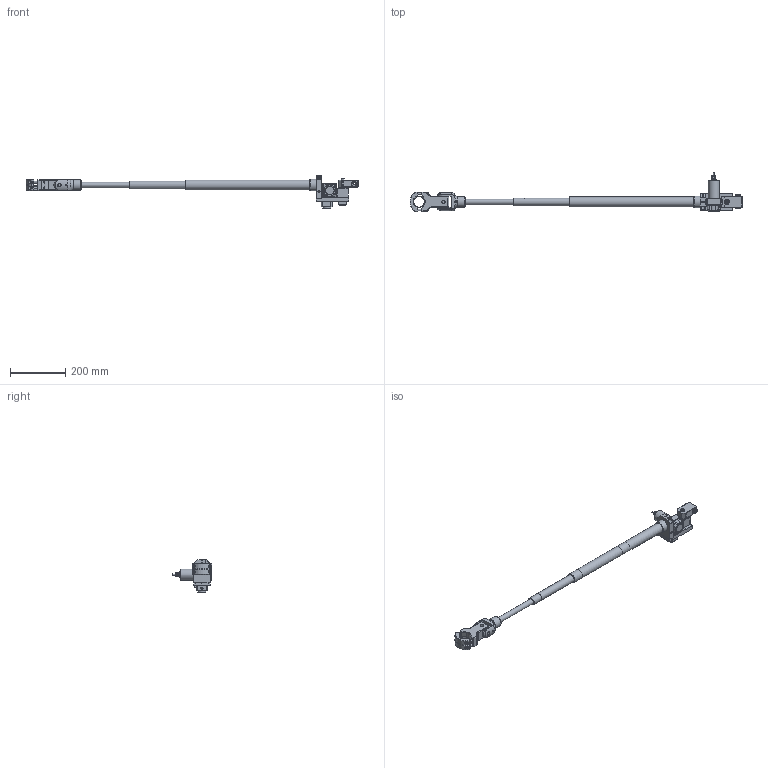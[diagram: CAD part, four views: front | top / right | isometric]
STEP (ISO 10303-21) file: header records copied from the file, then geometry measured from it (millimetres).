
FILE_DESCRIPTION( ( 'Unknown' ), '1' );
FILE_NAME( 'E:/0 Travail/0 Travaux en cours/Doga/Assemblage 2014/BIBLIOTEQUE 3D/Assemblage 2011/11-25-3637 DOGA/4-1200665-bras DMF 80 LAPC_1500/4-1200665-bras DMF 80 LAPC_1500.stp', 'Unknown', ( 'Unknown' ), ( 'Unknown' ), 'PSStep 14.0', 'Unknown', ' ' );
FILE_SCHEMA( ( 'AUTOMOTIVE_DESIGN { 1 0 10303 214 1 1 1 1 }' ) );
Length unit declared in the file: millimetre
Products named in the file (60): Tube 28-25 pour DMF80-1500 LPC ; Tube 20.2x24.8; Tube 28.2x31.8-oa5; Tube 25x28 pour DMF80-1500 LPC ; Asm Pince spéciale; Collier BA100; Collier BA100-oa1; CHC M6x45 fileté sous tete; CHC M6x45 fileté sous tete-oa2; CHC M6x45 fileté sous tete-oa3; CHC M6x45 fileté sous tete-oa4; Placement; Pince DMF80; Jonc 20 avec chape pour DMF80-1500 LPC ; Tube 20.2x24.8-oa6; Chape pour pince premium; axe chape premium; Jonc 20 pour DMF80-1500 LPC ; Tube 36-32 pour DMF80-1500 LPC ; Tube 28.2x31.8; bague de serrage pour DMF80 PC; Tube 32x36 pour DMF80-1500 LPC ; axe dia16 pour capteur d'angle assemblé DMF30 PC; Aimant; Rondelle AS1226; Rondelle AS1226-oa0; Butée à aiguilles AXK1226; Anneau élastique pour arbre 12; Axe Ø16 pour DMF30 PC ; SX50-1250-10V-KA-M4; SX50-1250-10V-KA-M4_12; SX50-1250-10V-KA-M4_13; SX50-1250-10V-KA-M4_10; SX50-1250-10V-KA-M4_11; SX50-1250-10V-KA-M4_14; SX50-1250-10V-KA-M4_15; SX50-1250-10V-KA-M4_1; SX50-1250-10V-KA-M4_7; SX50-1250-10V-KA-M4_4; SX50-1250-10V-KA-M4_2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
Assembly tree (61 placements, depth 4):
  Assem1
    fourreau  pour DMF30 PC
    Capteur de position angulaire QUADRO-R
    Boitier de dérivation
    Rondelle AS1730  x2
    Butée à aiguilles AXK1730
    Roulement à aiguilles HK1616  x2
    platine fixation carbone pour DMF80 PC
    platine support capteur DMF80 PC
    support fixation bras DMF30 et 80 LAPC
    Rondelle pour axe équerre DMF30 et 80 APC
    06 L
    CHC M6x12
    Axe pour équerre DMF 30 et 80 APC
    SX50-1250-10V-KA-M4
      SX50-1250-10V-KA-M4_12
      SX50-1250-10V-KA-M4_13
      SX50-1250-10V-KA-M4_10
      SX50-1250-10V-KA-M4_11
      SX50-1250-10V-KA-M4_14
      SX50-1250-10V-KA-M4_15
      SX50-1250-10V-KA-M4_1
      SX50-1250-10V-KA-M4_7
      SX50-1250-10V-KA-M4
      SX50-1250-10V-KA-M4_4
      SX50-1250-10V-KA-M4_2
      SX50-1250-10V-KA-M4_3
      SX50-1250-10V-KA-M4_6
      SX50-1250-10V-KA-M4_5
      SX50-1250-10V-KA-M4_16
    axe dia16 pour capteur d'angle assemblé DMF30 PC
      Aimant
      Rondelle AS1226
      Rondelle AS1226-oa0
      Butée à aiguilles AXK1226
      Anneau élastique pour arbre 12
      Axe Ø16 pour DMF30 PC 
    sous ensemble carbone pour DMF80-1500 LPC
      Asm Pince spéciale
        Collier BA100
        Collier BA100-oa1
        CHC M6x45 fileté sous tete
        CHC M6x45 fileté sous tete-oa2
        CHC M6x45 fileté sous tete-oa3
        CHC M6x45 fileté sous tete-oa4
        Placement
        Pince DMF80
      Tube 36-32 pour DMF80-1500 LPC 
        Tube 28.2x31.8
        bague de serrage pour DMF80 PC
        Tube 32x36 pour DMF80-1500 LPC 
      Tube 28-25 pour DMF80-1500 LPC 
        Tube 20.2x24.8
        Tube 28.2x31.8-oa5
        Tube 25x28 pour DMF80-1500 LPC 
      Jonc 20 avec chape pour DMF80-1500 LPC 
        Tube 20.2x24.8-oa6
        Chape pour pince premium
        axe chape premium
        Jonc 20 pour DMF80-1500 LPC 
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Bounding box: 1205.29 x 142 x 118.7 mm (x, y, z)
Volume: 973572.7 mm3; surface area: 456597.7 mm2
Topology: 39 solids, 208 shells, 1172 faces, 3423 edges, 2470 vertices
Faces by surface type: plane 557, cylinder 479, cone 100, torus 15, revolution 14, bspline 5, sphere 2
Full cylindrical faces by diameter (mm): 1 x2, 1.221 x1, 2.459 x7, 2.5 x4, 3.2 x5, 3.242 x2, 3.5 x1, 4.134 x12, 4.3 x2, 4.5 x1, 4.917 x12, 5 x5, 5.2 x7, 5.8 x5, 6 x11, 6.2 x5, 6.5 x4, 6.647 x3, 7 x3, 8 x2, 8.2 x2, 8.5 x1, 9 x4, 9.3 x1, 10 x6, 10.5 x3, 11.5 x1, 12 x16, 13 x2, 14 x1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
Entity records: 56670 total; most frequent: CARTESIAN_POINT 19533, DIRECTION 5448, ORIENTED_EDGE 5032, EDGE_CURVE 3015, VERTEX_POINT 2367, AXIS2_PLACEMENT_3D 2109, EDGE_LOOP 1646, LINE 1216
